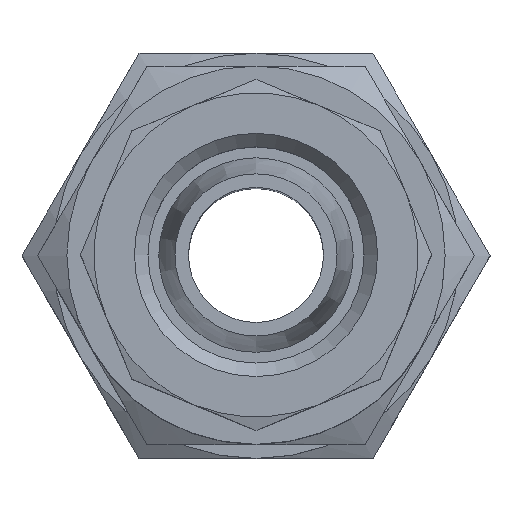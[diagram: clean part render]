
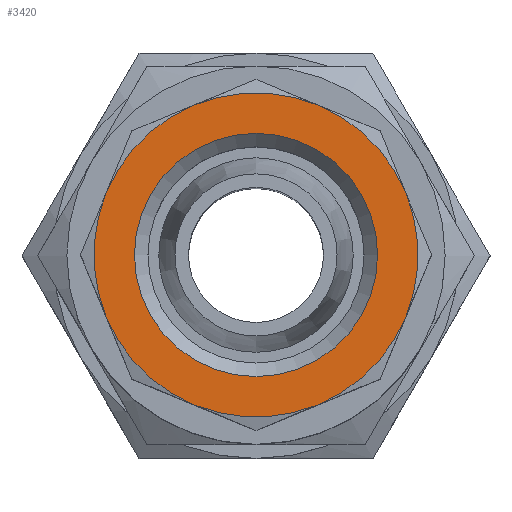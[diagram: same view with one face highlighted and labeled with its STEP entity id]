
A CAD part, top view. The second image highlights one B-rep face of the part: STEP entity #3420.
In plain terms, the highlighted planar face has unit normal (0, 0, 1) as drawn and (0, 1, 0) by its records, which use the part's own axes.
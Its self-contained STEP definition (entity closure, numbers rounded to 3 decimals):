
#1894=ORIENTED_EDGE('',*,*,#2320,.F.);
#1895=ORIENTED_EDGE('',*,*,#2321,.F.);
#1896=ORIENTED_EDGE('',*,*,#2322,.F.);
#1897=ORIENTED_EDGE('',*,*,#2323,.F.);
#1898=ORIENTED_EDGE('',*,*,#2324,.F.);
#1899=ORIENTED_EDGE('',*,*,#2325,.F.);
#1900=ORIENTED_EDGE('',*,*,#2326,.F.);
#1901=ORIENTED_EDGE('',*,*,#2327,.F.);
#1902=ORIENTED_EDGE('',*,*,#2319,.T.);
#2121=CIRCLE('',#3217,4.5);
#2122=CIRCLE('',#3219,6.);
#2123=CIRCLE('',#3220,6.);
#2124=CIRCLE('',#3221,6.);
#2125=CIRCLE('',#3222,6.);
#2126=CIRCLE('',#3223,6.);
#2127=CIRCLE('',#3224,6.);
#2128=CIRCLE('',#3225,6.);
#2129=CIRCLE('',#3226,6.);
#2197=VERTEX_POINT('',#3608);
#2198=VERTEX_POINT('',#3611);
#2199=VERTEX_POINT('',#3612);
#2200=VERTEX_POINT('',#3614);
#2201=VERTEX_POINT('',#3616);
#2202=VERTEX_POINT('',#3618);
#2203=VERTEX_POINT('',#3620);
#2204=VERTEX_POINT('',#3622);
#2205=VERTEX_POINT('',#3624);
#2319=EDGE_CURVE('',#2197,#2197,#2121,.T.);
#2320=EDGE_CURVE('',#2198,#2199,#2122,.T.);
#2321=EDGE_CURVE('',#2200,#2198,#2123,.T.);
#2322=EDGE_CURVE('',#2201,#2200,#2124,.T.);
#2323=EDGE_CURVE('',#2202,#2201,#2125,.T.);
#2324=EDGE_CURVE('',#2203,#2202,#2126,.T.);
#2325=EDGE_CURVE('',#2204,#2203,#2127,.T.);
#2326=EDGE_CURVE('',#2205,#2204,#2128,.T.);
#2327=EDGE_CURVE('',#2199,#2205,#2129,.T.);
#2466=EDGE_LOOP('',(#1894,#1895,#1896,#1897,#1898,#1899,#1900,#1901));
#2467=EDGE_LOOP('',(#1902));
#2588=FACE_BOUND('',#2466,.T.);
#2589=FACE_BOUND('',#2467,.T.);
#2836=DIRECTION('',(0.,-1.,0.));
#2837=DIRECTION('',(0.,0.,-4.5));
#2838=DIRECTION('',(0.,1.,0.));
#2839=DIRECTION('',(1.,0.,0.));
#2840=DIRECTION('',(0.,-1.,0.));
#2841=DIRECTION('',(0.,0.,6.));
#2842=DIRECTION('',(0.,-1.,0.));
#2843=DIRECTION('',(0.,0.,6.));
#2844=DIRECTION('',(0.,-1.,0.));
#2845=DIRECTION('',(0.,0.,6.));
#2846=DIRECTION('',(0.,-1.,0.));
#2847=DIRECTION('',(0.,0.,6.));
#2848=DIRECTION('',(0.,-1.,0.));
#2849=DIRECTION('',(0.,0.,6.));
#2850=DIRECTION('',(0.,-1.,0.));
#2851=DIRECTION('',(0.,0.,6.));
#2852=DIRECTION('',(0.,-1.,0.));
#2853=DIRECTION('',(0.,0.,6.));
#2854=DIRECTION('',(0.,-1.,0.));
#2855=DIRECTION('',(0.,0.,6.));
#3217=AXIS2_PLACEMENT_3D('',#3609,#2836,#2837);
#3218=AXIS2_PLACEMENT_3D('',#3610,#2838,#2839);
#3219=AXIS2_PLACEMENT_3D('',#3613,#2840,#2841);
#3220=AXIS2_PLACEMENT_3D('',#3615,#2842,#2843);
#3221=AXIS2_PLACEMENT_3D('',#3617,#2844,#2845);
#3222=AXIS2_PLACEMENT_3D('',#3619,#2846,#2847);
#3223=AXIS2_PLACEMENT_3D('',#3621,#2848,#2849);
#3224=AXIS2_PLACEMENT_3D('',#3623,#2850,#2851);
#3225=AXIS2_PLACEMENT_3D('',#3625,#2852,#2853);
#3226=AXIS2_PLACEMENT_3D('',#3626,#2854,#2855);
#3365=PLANE('',#3218);
#3420=ADVANCED_FACE('',(#2588,#2589),#3365,.T.);
#3608=CARTESIAN_POINT('',(26.989,26.095,-4.5));
#3609=CARTESIAN_POINT('',(26.989,26.095,0.));
#3610=CARTESIAN_POINT('',(29.285,26.095,5.543));
#3611=CARTESIAN_POINT('',(21.446,26.095,-2.296));
#3612=CARTESIAN_POINT('',(24.693,26.095,-5.543));
#3613=CARTESIAN_POINT('',(26.989,26.095,0.));
#3614=CARTESIAN_POINT('',(21.446,26.095,2.296));
#3615=CARTESIAN_POINT('',(26.989,26.095,0.));
#3616=CARTESIAN_POINT('',(24.693,26.095,5.543));
#3617=CARTESIAN_POINT('',(26.989,26.095,0.));
#3618=CARTESIAN_POINT('',(29.285,26.095,5.543));
#3619=CARTESIAN_POINT('',(26.989,26.095,0.));
#3620=CARTESIAN_POINT('',(32.532,26.095,2.296));
#3621=CARTESIAN_POINT('',(26.989,26.095,0.));
#3622=CARTESIAN_POINT('',(32.532,26.095,-2.296));
#3623=CARTESIAN_POINT('',(26.989,26.095,0.));
#3624=CARTESIAN_POINT('',(29.285,26.095,-5.543));
#3625=CARTESIAN_POINT('',(26.989,26.095,0.));
#3626=CARTESIAN_POINT('',(26.989,26.095,0.));
